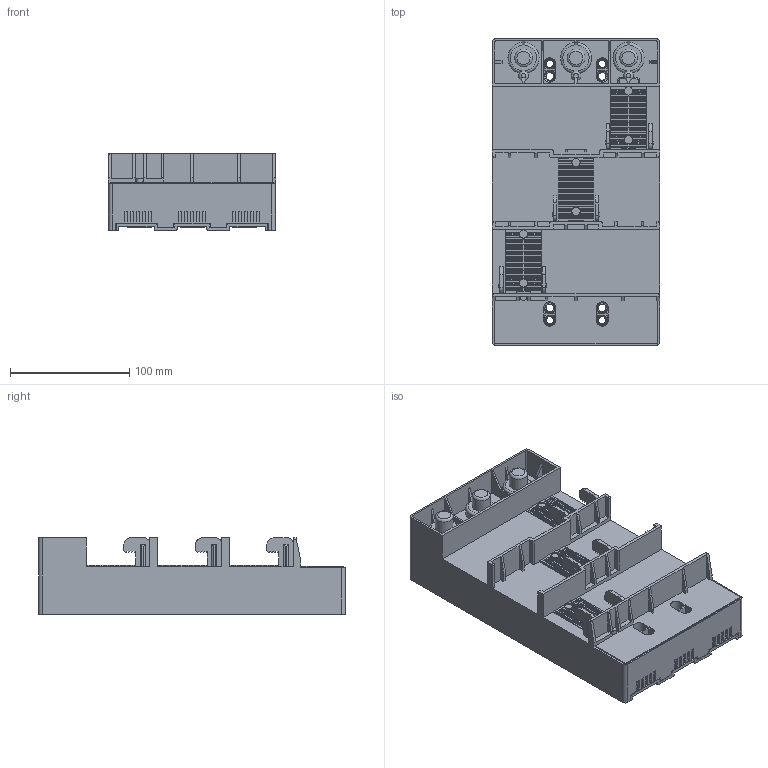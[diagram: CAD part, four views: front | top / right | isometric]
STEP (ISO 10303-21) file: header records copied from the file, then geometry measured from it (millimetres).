
FILE_DESCRIPTION (( 'STEP AP203' ), '1' );
FILE_NAME ('55011.STEP', '2021-08-26T08:01:16', ( '' ), ( '' ), 'SwSTEP 2.0', 'SolidWorks 2017', '' );
FILE_SCHEMA (( 'CONFIG_CONTROL_DESIGN' ));
Length unit declared in the file: millimetre
Products named in the file (2): 55011
Bounding box: 140 x 257 x 64 mm (x, y, z)
Volume: 1386500.7 mm3; surface area: 206298.5 mm2
Topology: 1 solids, 7 shells, 2069 faces, 5930 edges, 3903 vertices
Faces by surface type: plane 1616, cylinder 289, bspline 108, cone 38, torus 18
Full cylindrical faces by diameter (mm): 3.2 x3, 3.3 x3, 6 x4, 6.3 x4, 7 x6, 8.4 x6, 9 x3, 10.5 x3, 11 x2, 15 x3, 21 x3, 22 x3
Entity records: 74023 total; most frequent: CARTESIAN_POINT 20974, ORIENTED_EDGE 11618, DIRECTION 9888, EDGE_CURVE 5809, LINE 4720, VECTOR 4720, VERTEX_POINT 3856, AXIS2_PLACEMENT_3D 2584
